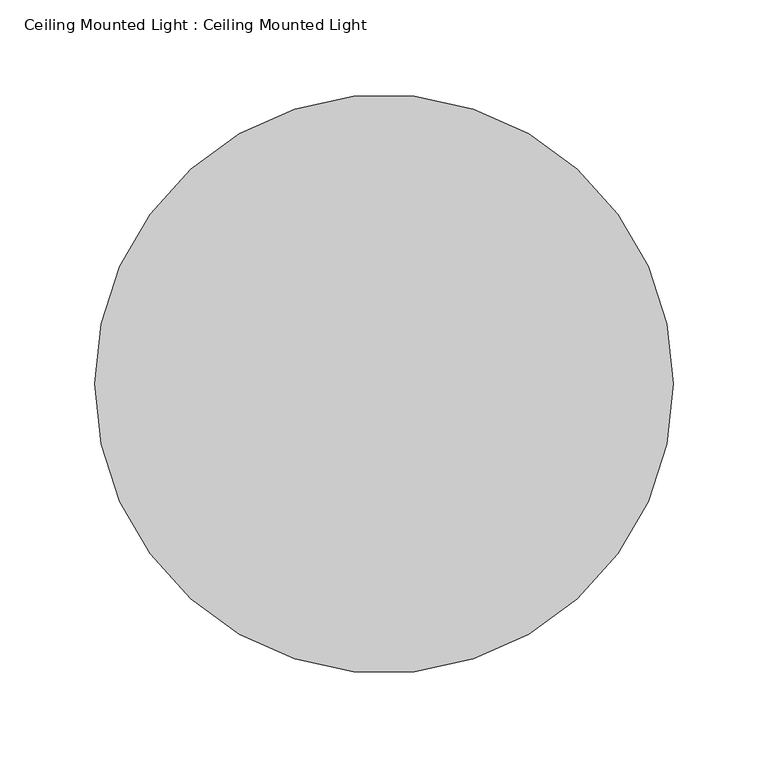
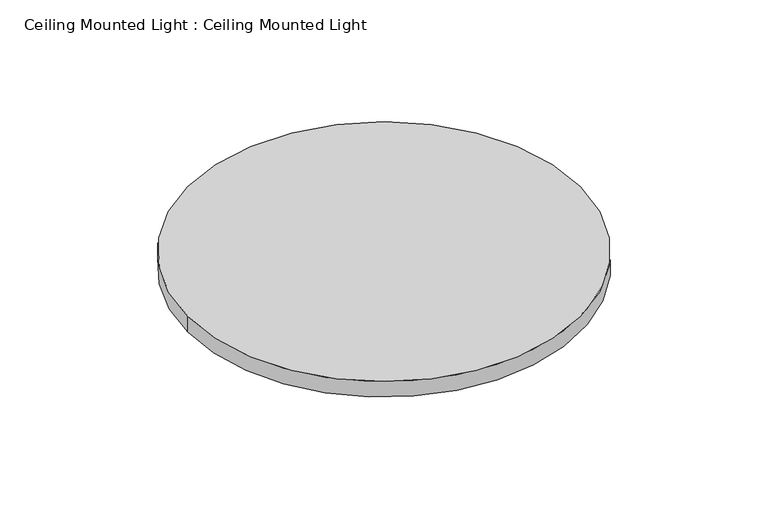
"""IFC4 building model written with IfcOpenShell, lengths in millimetres: proxy geometry, Ceiling Mounted Light : Ceiling Mounted Light."""

from ifc_helpers import new_model, si_unit, point, frame, origin, origin_2d, place, context, project, spatial, circle_curve, trimmed, segment, composite_curve, outline, extrude, source, transform, mapped, element, save


def ceiling_mounted_light_ceiling_mounted_light_7ff73806(model_context):
    return source(origin(), model_context, "Body", "SweptSolid", [
        extrude(outline(composite_curve([segment(trimmed(circle_curve(origin_2d(), 152.4), [point((-152.4, 0.0))], [point((152.4, 0.0))], False, "CARTESIAN"), True, "CONTINUOUS"), segment(trimmed(circle_curve(origin_2d(), 152.4), [point((152.4, 0.0))], [point((-152.4, 0.0))], False, "CARTESIAN"), True, "CONTINUOUS")], self_intersect=False)), frame((0.0, 0.0, 2438.4), z_axis=(0.0, 0.0, 1.0), x_axis=(1.0, 0.0, 0.0)), (0.0, 0.0, 1.0), 12.7),
    ])


if __name__ == "__main__":
    model = new_model("IFC4")
    model_context = context("Model", 3, world=origin())
    ifc_project = project(units=[si_unit("LENGTHUNIT", "METRE", prefix="MILLI")], contexts=[model_context])
    site = spatial("IfcSite", under=ifc_project)
    building = spatial("IfcBuilding", under=site)
    placement = place(None, origin())
    ceiling_mounted_light_ceiling_mounted_light_shape = ceiling_mounted_light_ceiling_mounted_light_7ff73806(model_context)
    element("IfcBuildingElementProxy", 1, Name="Ceiling Mounted Light : Ceiling Mounted Light", ObjectType="Ceiling Mounted Light : Ceiling Mounted Light", at=placement, inside=building, context=model_context, shape_type="MappedRepresentation", body=[
        mapped(ceiling_mounted_light_ceiling_mounted_light_shape, transform((0.0, 0.0, 0.0), x_axis=(1.0, 0.0, 0.0), y_axis=(0.0, 1.0, 0.0), z_axis=(0.0, 0.0, 1.0))),
    ])
    save(model, "model.ifc")
